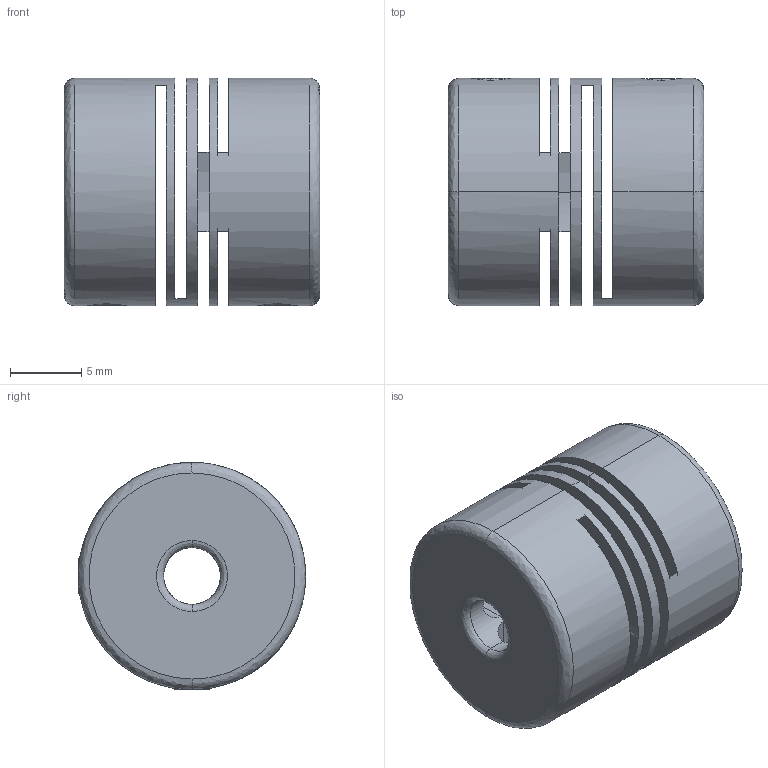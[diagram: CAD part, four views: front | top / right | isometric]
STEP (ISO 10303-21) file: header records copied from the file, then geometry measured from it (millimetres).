
FILE_DESCRIPTION (( 'STEP AP203' ), '1' );
FILE_NAME ('FAMM-S16.STEP', '2008-04-19T05:45:42', ( 'user' ), ( '' ), 'SwSTEP 2.0', 'SolidWorks 2007', '' );
FILE_SCHEMA (( 'CONFIG_CONTROL_DESIGN' ));
Length unit declared in the file: millimetre
Products named in the file (1): FAMM-S16
Bounding box: 18 x 16 x 16 mm (x, y, z)
Surface area: 2674.6 mm2 (no closed solid volume)
Topology: 0 solids, 7 shells, 87 faces, 255 edges, 164 vertices
Faces by surface type: plane 38, cone 17, bspline 16, cylinder 16
Entity records: 5046 total; most frequent: CARTESIAN_POINT 2840, ORIENTED_EDGE 445, DIRECTION 381, EDGE_CURVE 251, VERTEX_POINT 164, VECTOR 133, LINE 133, AXIS2_PLACEMENT_3D 124
